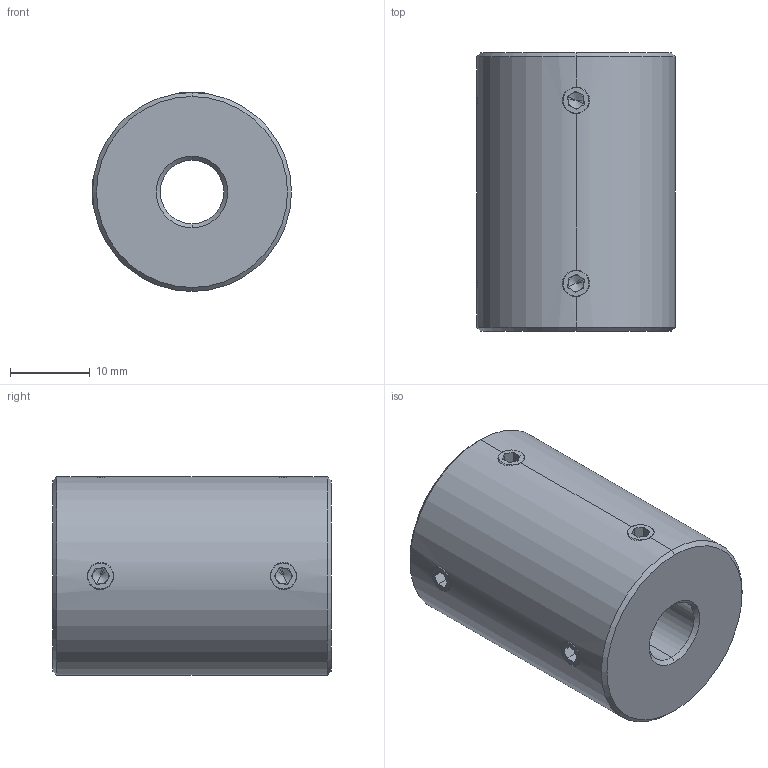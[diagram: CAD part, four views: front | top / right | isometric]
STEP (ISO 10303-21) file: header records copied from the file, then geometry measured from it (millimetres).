
FILE_DESCRIPTION (( 'STEP AP214' ), '1' );
FILE_NAME ('LL-D-D25L35-8-8½¨Ä£.STEP', '2022-07-23T00:40:16', ( '' ), ( '' ), 'SwSTEP 2.0', 'SolidWorks 2022', '' );
FILE_SCHEMA (( 'AUTOMOTIVE_DESIGN' ));
Length unit declared in the file: millimetre
Products named in the file (1): LL-D-D25L35-8-8膘耀
Bounding box: 25 x 35 x 25 mm (x, y, z)
Volume: 15213.2 mm3; surface area: 4709.6 mm2
Topology: 1 solids, 1 shells, 110 faces, 280 edges, 172 vertices
Faces by surface type: plane 58, cone 32, cylinder 20
Entity records: 3642 total; most frequent: CARTESIAN_POINT 999, ORIENTED_EDGE 544, DIRECTION 542, EDGE_CURVE 272, AXIS2_PLACEMENT_3D 199, VERTEX_POINT 172, LINE 144, VECTOR 144
